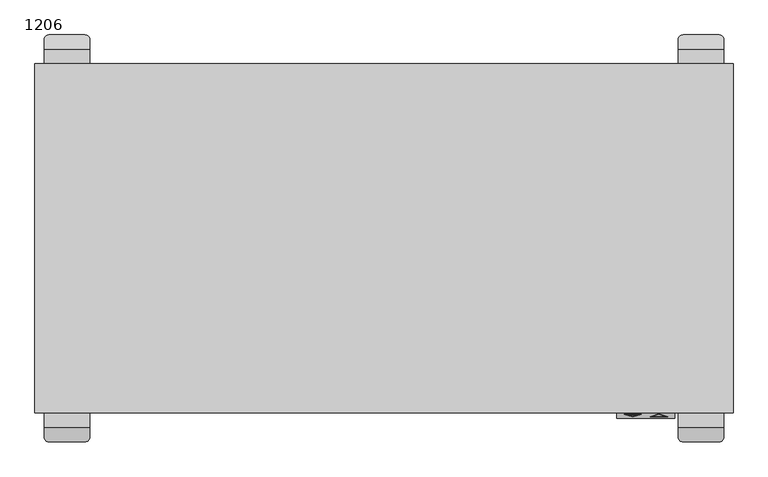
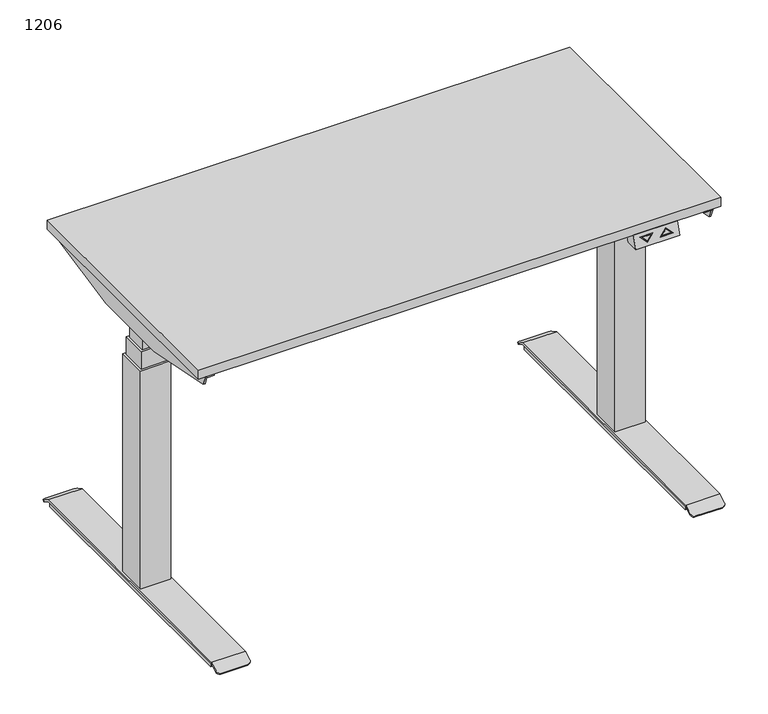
"""IFC4 building model written with IfcOpenShell, lengths in millimetres: furniture geometry, PINTA EQC : 1206."""

from ifc_helpers import new_model, si_unit, point, frame, frame_2d, origin, origin_with_axes, place, context, project, spatial, polyline, circle_curve, trimmed, segment, composite_curve, outline, extrude, faceted_brep, source, transform, mapped, element, save
from ifc_brep_helpers import plane_surface, cylinder_surface, advanced_brep


def furniture_1206_20e70a9a(model_context):
    return source(origin(), model_context, "Body", "SolidModel", [
        faceted_brep([(400.0, -610.0, 668.0), (400.0, -580.0, 668.0), (500.0, -580.0, 668.0), (500.0, -610.0, 668.0), (400.0, -600.0, 698.0), (500.0, -600.0, 698.0), (500.0, -570.0, 698.0), (400.0, -570.0, 698.0), (412.5, -602.6491106, 690.0526681), (442.5, -602.6491106, 690.0526681), (427.5, -607.3925271, 675.8224186), (487.5, -606.9174824, 677.2475529), (457.5, -606.9174824, 677.2475529), (472.5, -602.1740659, 691.4778023), (427.5, -606.4980999, 678.5057002), (437.6715729, -603.2815662, 688.1553015), (417.3284271, -603.2815662, 688.1553015), (482.6715729, -606.2850268, 679.1449195), (472.5, -603.0684931, 688.7945208), (462.3284271, -606.2850268, 679.1449195), (442.5, -601.7004273, 689.7364403), (412.5, -601.7004273, 689.7364403), (427.5, -606.4438438, 675.5061908), (437.6715729, -602.3328829, 687.8390737), (427.5, -605.5494166, 678.1894724), (417.3284271, -602.3328829, 687.8390737), (457.5, -605.9687991, 676.9313251), (487.5, -605.9687991, 676.9313251), (472.5, -601.2253826, 691.1615746), (472.5, -602.1198098, 688.478293), (482.6715729, -605.3363436, 678.8286917), (462.3284271, -605.3363436, 678.8286917)], [[[0, 1, 2, 3]], [[4, 5, 6, 7]], [[1, 0, 4, 7]], [[3, 2, 6, 5]], [[0, 3, 5, 4], [8, 9, 10], [11, 12, 13]], [[14, 15, 16]], [[17, 18, 19]], [[2, 1, 7, 6]], [[20, 21, 22], [23, 24, 25]], [[26, 27, 28], [29, 30, 31]], [[21, 20, 9, 8]], [[22, 21, 8, 10]], [[20, 22, 10, 9]], [[27, 26, 12, 11]], [[28, 27, 11, 13]], [[26, 28, 13, 12]], [[24, 23, 15, 14]], [[25, 24, 14, 16]], [[23, 25, 16, 15]], [[30, 29, 18, 17]], [[31, 30, 17, 19]], [[29, 31, 19, 18]]]),
        extrude(outline(polyline([(-580.0, -219.7732113), (580.0, -219.7733158), (580.0, -239.7733158), (-580.0, -239.7732113), (-580.0, -219.7732113)])), frame((0.0, 0.0, 658.0), z_axis=(0.0, 0.0, 1.0), x_axis=(1.0, 0.0, 0.0)), (0.0, 0.0, 1.0), 40.0),
        extrude(outline(polyline([(-580.0, -359.7732114), (580.0, -359.7733158), (580.0, -379.7733158), (-580.0, -379.7732114), (-580.0, -359.7732114)])), frame((0.0, 0.0, 658.0), z_axis=(0.0, 0.0, 1.0), x_axis=(1.0, 0.0, 0.0)), (0.0, 0.0, 1.0), 40.0),
        extrude(outline(polyline([(-600.0, -600.0), (-600.0, 0.0), (600.0, 0.0), (600.0, -600.0), (-600.0, -600.0)])), frame((0.0, 0.0, 698.0), z_axis=(0.0, 0.0, 1.0), x_axis=(1.0, 0.0, 0.0)), (0.0, 0.0, 1.0), 22.0),
        advanced_brep(
        [(506.9772339, -620.0, 6.0), (506.9772339, -620.0, 16.0), (506.9772339, 20.0, 16.0), (506.9772339, 20.0, 6.0), (583.0227661, 20.0, 16.0), (583.0227661, 20.0, 6.0), (583.0227661, -620.0, 16.0), (583.0227661, -620.0, 6.0), (506.0, 25.0, 20.0), (506.0, 43.0199519, 9.908827), (506.0, 41.0655384, 6.4188029), (506.0, 23.9562578, 16.0), (506.0, -623.9562578, 16.0), (506.0, -641.0655384, 6.4188029), (506.0, -643.0199519, 9.908827), (506.0, -625.0, 20.0), (584.0, 23.9562578, 16.0), (584.0, 41.0655384, 6.4188029), (584.0, 43.0199519, 9.908827), (584.0, 25.0, 20.0), (584.0, -625.0, 20.0), (584.0, -643.0199519, 9.908827), (584.0, -641.0655384, 6.4188029), (584.0, -623.9562578, 16.0), (514.0, -650.0, 6.0), (576.0, -650.0, 6.0), (514.0, -648.0455865, 2.5099759), (576.0, -648.0455865, 2.5099759), (514.0, 48.0455865, 2.5099759), (576.0, 48.0455865, 2.5099759), (514.0, 50.0, 6.0), (576.0, 50.0, 6.0)],
        [
            (0, 1),
            (1, 2),
            (2, 3),
            (3, 0),
            (2, 4),
            (4, 5),
            (5, 3),
            (4, 6),
            (6, 7),
            (7, 5),
            (6, 1),
            (0, 7),
            (8, 9),
            (9, 10),
            (10, 11),
            (11, 12),
            (12, 13),
            (13, 14),
            (14, 15),
            (15, 8),
            (16, 17),
            (17, 18),
            (18, 19),
            (19, 20),
            (20, 21),
            (21, 22),
            (22, 23),
            (23, 16),
            (15, 20),
            (19, 8),
            (11, 16),
            (23, 12),
            (14, 24, circle_curve(frame((514.0, -643.0199519, 9.908827), z_axis=(0.0, -0.4886033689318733, 0.8725060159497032), x_axis=(0.0, 0.8725060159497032, 0.4886033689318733)), 8.0)),
            (24, 25),
            (25, 21, circle_curve(frame((576.0, -643.0199519, 9.908827), z_axis=(0.0, -0.4886033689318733, 0.8725060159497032), x_axis=(0.0, 0.8725060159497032, 0.4886033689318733)), 8.0)),
            (24, 26),
            (26, 27),
            (27, 25),
            (22, 27, circle_curve(frame((576.0, -641.0655384, 6.4188029), z_axis=(0.0, 0.4886033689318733, -0.8725060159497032), x_axis=(0.0, 0.8725060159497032, 0.4886033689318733)), 8.0)),
            (26, 13, circle_curve(frame((514.0, -641.0655384, 6.4188029), z_axis=(0.0, 0.4886033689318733, -0.8725060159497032), x_axis=(0.0, 0.8725060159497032, 0.4886033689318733)), 8.0)),
            (10, 28, circle_curve(frame((514.0, 41.0655384, 6.4188029), z_axis=(0.0, -0.4886033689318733, -0.8725060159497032), x_axis=(0.0, -0.8725060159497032, 0.4886033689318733)), 8.0)),
            (28, 29),
            (29, 17, circle_curve(frame((576.0, 41.0655384, 6.4188029), z_axis=(0.0, -0.4886033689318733, -0.8725060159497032), x_axis=(0.0, -0.8725060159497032, 0.4886033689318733)), 8.0)),
            (28, 30),
            (30, 31),
            (31, 29),
            (18, 31, circle_curve(frame((576.0, 43.0199519, 9.908827), z_axis=(0.0, 0.4886033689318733, 0.8725060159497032), x_axis=(0.0, -0.8725060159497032, 0.4886033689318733)), 8.0)),
            (30, 9, circle_curve(frame((514.0, 43.0199519, 9.908827), z_axis=(0.0, 0.4886033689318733, 0.8725060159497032), x_axis=(0.0, -0.8725060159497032, 0.4886033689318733)), 8.0)),
        ],
        [
            plane_surface(frame((506.9772339, -620.0, 16.0), z_axis=(-1.0, 0.0, 0.0), x_axis=(0.0, 0.0, -1.0))),
            plane_surface(frame((506.9772339, 20.0, 16.0), z_axis=(0.0, 1.0, 0.0), x_axis=(0.0, 0.0, -1.0))),
            plane_surface(frame((583.0227661, 20.0, 16.0), z_axis=(1.0, 0.0, 0.0), x_axis=(0.0, 0.0, -1.0))),
            plane_surface(frame((583.0227661, -620.0, 16.0), z_axis=(0.0, -1.0, 0.0), x_axis=(0.0, 0.0, -1.0))),
            plane_surface(frame((506.9772339, -623.4188232, 6.0), z_axis=(0.0, 0.0, -1.0), x_axis=(0.0, -1.0, 0.0))),
            plane_surface(frame((506.0, -300.0, 20.0), z_axis=(-1.0, 0.0, 0.0), x_axis=(0.0, -1.0, 0.0))),
            plane_surface(frame((584.0, -300.0, 20.0), z_axis=(1.0, 0.0, 0.0), x_axis=(0.0, 1.0, 0.0))),
            plane_surface(frame((506.0, 25.0, 20.0), z_axis=(0.0, 0.0, 1.0), x_axis=(1.0, 0.0, 0.0))),
            plane_surface(frame((506.0, -623.9562578, 16.0), z_axis=(0.0, 0.0, -1.0), x_axis=(1.0, 0.0, 0.0))),
            plane_surface(frame((506.0, -625.0, 20.0), z_axis=(0.0, -0.4886033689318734, 0.8725060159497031), x_axis=(1.0, 0.0, 0.0))),
            plane_surface(frame((506.0, -650.0, 6.0), z_axis=(0.0, -0.872506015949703, -0.4886033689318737), x_axis=(1.0, 0.0, 0.0))),
            plane_surface(frame((506.0, -648.0455865, 2.5099759), z_axis=(0.0, 0.4886033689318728, -0.8725060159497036), x_axis=(1.0, 0.0, 0.0))),
            plane_surface(frame((506.0, 23.9562578, 16.0), z_axis=(0.0, -0.4886033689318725, -0.8725060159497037), x_axis=(1.0, 0.0, 0.0))),
            plane_surface(frame((506.0, 48.0455865, 2.5099759), z_axis=(0.0, 0.8725060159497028, -0.48860336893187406), x_axis=(1.0, 0.0, 0.0))),
            plane_surface(frame((506.0, 50.0, 6.0), z_axis=(0.0, 0.48860336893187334, 0.8725060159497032), x_axis=(1.0, 0.0, 0.0))),
            cylinder_surface(frame((514.0, -643.0199519, 9.908827), z_axis=(0.0, -0.4886033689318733, 0.8725060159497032), x_axis=(0.0, 0.8725060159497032, 0.4886033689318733)), 8.0),
            cylinder_surface(frame((576.0, -643.0199519, 9.908827), z_axis=(0.0, -0.4886033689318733, 0.8725060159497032), x_axis=(0.0, 0.8725060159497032, 0.4886033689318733)), 8.0),
            cylinder_surface(frame((514.0, 43.0199519, 9.908827), z_axis=(0.0, 0.4886033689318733, 0.8725060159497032), x_axis=(0.0, -0.8725060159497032, 0.4886033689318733)), 8.0),
            cylinder_surface(frame((576.0, 43.0199519, 9.908827), z_axis=(0.0, 0.4886033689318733, 0.8725060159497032), x_axis=(0.0, -0.8725060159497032, 0.4886033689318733)), 8.0),
        ],
        [
            (0, [[1, 2, 3, 4]]),
            (1, [[-3, 5, 6, 7]]),
            (2, [[-6, 8, 9, 10]]),
            (3, [[-9, 11, -1, 12]]),
            (4, [[-4, -7, -10, -12]]),
            (5, [[13, 14, 15, 16, 17, 18, 19, 20]]),
            (6, [[21, 22, 23, 24, 25, 26, 27, 28]]),
            (7, [[29, -24, 30, -20]]),
            (8, [[31, -28, 32, -16], [-11, -8, -5, -2]]),
            (9, [[-19, 33, 34, 35, -25, -29]]),
            (10, [[36, 37, 38, -34]]),
            (11, [[-27, 39, -37, 40, -17, -32]]),
            (12, [[-15, 41, 42, 43, -21, -31]]),
            (13, [[44, 45, 46, -42]]),
            (14, [[-23, 47, -45, 48, -13, -30]]),
            (15, [[-40, -36, -33, -18]]),
            (16, [[-35, -38, -39, -26]]),
            (17, [[-48, -44, -41, -14]]),
            (18, [[-43, -46, -47, -22]]),
        ],
    ),
        faceted_brep([(379.4551307, -360.0, 698.0), (562.9996948, -360.0, 698.0), (562.9996948, -600.0, 698.0), (579.4551307, -600.0, 698.0), (583.0, -600.0, 698.0), (583.0, 0.0, 698.0), (579.4551307, 0.0, 698.0), (562.9996948, 0.0, 698.0), (562.9996948, -240.0, 698.0), (379.4551307, -240.0, 698.0), (379.4551307, -360.0, 635.2327881), (379.4551307, -240.0, 635.2327881), (579.4551307, -240.0, 635.2327881), (579.4551307, -203.8252348, 635.2327881), (583.0, -203.8252348, 635.2327881), (583.0, -396.1747652, 635.2327881), (579.4551307, -396.1747652, 635.2327881), (579.4551307, -360.0, 635.2327881), (562.9996948, -240.0, 694.9093018), (579.4551307, -240.0, 694.9093018), (579.4551307, -360.0, 694.9093018), (562.9996948, -360.0, 694.9093018), (579.4551307, -600.0, 694.9093018), (562.9996948, -600.0, 694.9093018), (579.4551307, 0.0, 694.9093018), (562.9996948, 0.0, 694.9093018), (579.4551307, -1.1249222, 694.9093018), (579.4551307, -598.8750778, 694.9093018), (579.4551307, -8.5505036, 674.5076845), (579.4551307, -591.4494964, 674.5076845), (583.0, -8.5505036, 674.5076845), (583.0, -591.4494964, 674.5076845)], [[[0, 1, 2, 3, 4, 5, 6, 7, 8, 9]], [[10, 11, 12, 13, 14, 15, 16, 17]], [[9, 11, 10, 0]], [[11, 9, 8, 18, 19, 12]], [[17, 20, 21, 1, 0, 10]], [[22, 3, 2, 23]], [[24, 25, 7, 6]], [[24, 26, 19, 18, 25]], [[23, 21, 20, 27, 22]], [[2, 1, 21, 23]], [[25, 18, 8, 7]], [[13, 12, 19, 26, 28]], [[29, 27, 20, 17, 16]], [[15, 14, 30, 5, 4, 31]], [[16, 15, 31, 29]], [[22, 27, 3]], [[6, 26, 24]], [[4, 3, 27, 29, 31]], [[28, 30, 14, 13]], [[30, 28, 26, 6, 5]]]),
        extrude(outline(composite_curve([segment(trimmed(circle_curve(frame_2d((545.0, -605.0)), 25.0), [point((570.0, -605.0))], [point((520.0, -605.0))], False, "CARTESIAN"), True, "CONTINUOUS"), segment(trimmed(circle_curve(frame_2d((545.0, -605.0)), 25.0), [point((520.0, -605.0))], [point((570.0, -605.0))], False, "CARTESIAN"), True, "CONTINUOUS")], self_intersect=False)), origin_with_axes(), (0.0, 0.0, 1.0), 6.0),
        extrude(outline(composite_curve([segment(trimmed(circle_curve(frame_2d((545.0, 5.0)), 25.0), [point((570.0, 5.0))], [point((520.0, 5.0))], False, "CARTESIAN"), True, "CONTINUOUS"), segment(trimmed(circle_curve(frame_2d((545.0, 5.0)), 25.0), [point((520.0, 5.0))], [point((570.0, 5.0))], False, "CARTESIAN"), True, "CONTINUOUS")], self_intersect=False)), origin_with_axes(), (0.0, 0.0, 1.0), 6.0),
        faceted_brep([(510.0, -265.0, 550.0), (510.0, -334.9621325, 550.0), (580.0, -334.9621325, 550.0), (580.0, -265.0, 550.0), (575.0, -270.0, 550.0), (575.0, -329.9621325, 550.0), (515.0, -329.9621325, 550.0), (515.0, -270.0, 550.0), (510.0, -265.0, 20.0), (580.0, -265.0, 20.0), (580.0, -334.9621325, 20.0), (510.0, -334.9621325, 20.0), (515.0, -270.0, 592.616394), (515.0, -329.9621325, 592.616394), (575.0, -329.9621325, 592.616394), (575.0, -270.0, 592.616394), (570.0, -275.0, 592.616394), (570.0, -324.9621325, 592.616394), (520.0, -324.9621325, 592.616394), (520.0, -275.0, 592.616394), (520.0, -275.0, 635.2327881), (520.0, -324.9621325, 635.2327881), (570.0, -324.9621325, 635.2327881), (570.0, -275.0, 635.2327881)], [[[0, 1, 2, 3], [4, 5, 6, 7]], [[8, 9, 10, 11]], [[3, 9, 8, 0]], [[2, 10, 9, 3]], [[1, 11, 10, 2]], [[0, 8, 11, 1]], [[12, 13, 14, 15], [16, 17, 18, 19]], [[15, 4, 7, 12]], [[14, 5, 4, 15]], [[13, 6, 5, 14]], [[12, 7, 6, 13]], [[20, 21, 22, 23]], [[23, 16, 19, 20]], [[22, 17, 16, 23]], [[21, 18, 17, 22]], [[20, 19, 18, 21]]]),
        advanced_brep(
        [(-506.9772339, -620.0, 6.0), (-506.9772339, 20.0, 6.0), (-506.9772339, 20.0, 16.0), (-506.9772339, -620.0, 16.0), (-583.0227661, 20.0, 6.0), (-583.0227661, 20.0, 16.0), (-583.0227661, -620.0, 6.0), (-583.0227661, -620.0, 16.0), (-506.0, 25.0, 20.0), (-506.0, -625.0, 20.0), (-506.0, -643.0199519, 9.908827), (-506.0, -641.0655384, 6.4188029), (-506.0, -623.9562578, 16.0), (-506.0, 23.9562578, 16.0), (-506.0, 41.0655384, 6.4188029), (-506.0, 43.0199519, 9.908827), (-584.0, 23.9562578, 16.0), (-584.0, -623.9562578, 16.0), (-584.0, -641.0655384, 6.4188029), (-584.0, -643.0199519, 9.908827), (-584.0, -625.0, 20.0), (-584.0, 25.0, 20.0), (-584.0, 43.0199519, 9.908827), (-584.0, 41.0655384, 6.4188029), (-576.0, -650.0, 6.0), (-514.0, -650.0, 6.0), (-576.0, -648.0455865, 2.5099759), (-514.0, -648.0455865, 2.5099759), (-576.0, 48.0455865, 2.5099759), (-514.0, 48.0455865, 2.5099759), (-576.0, 50.0, 6.0), (-514.0, 50.0, 6.0)],
        [
            (0, 1),
            (1, 2),
            (2, 3),
            (3, 0),
            (1, 4),
            (4, 5),
            (5, 2),
            (4, 6),
            (6, 7),
            (7, 5),
            (6, 0),
            (3, 7),
            (8, 9),
            (9, 10),
            (10, 11),
            (11, 12),
            (12, 13),
            (13, 14),
            (14, 15),
            (15, 8),
            (16, 17),
            (17, 18),
            (18, 19),
            (19, 20),
            (20, 21),
            (21, 22),
            (22, 23),
            (23, 16),
            (8, 21),
            (20, 9),
            (12, 17),
            (16, 13),
            (19, 24, circle_curve(frame((-576.0, -643.0199519, 9.908827), z_axis=(0.0, -0.4886033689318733, 0.8725060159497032), x_axis=(0.0, 0.8725060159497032, 0.4886033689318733)), 8.0)),
            (24, 25),
            (25, 10, circle_curve(frame((-514.0, -643.0199519, 9.908827), z_axis=(0.0, -0.4886033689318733, 0.8725060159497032), x_axis=(0.0, 0.8725060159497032, 0.4886033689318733)), 8.0)),
            (24, 26),
            (26, 27),
            (27, 25),
            (11, 27, circle_curve(frame((-514.0, -641.0655384, 6.4188029), z_axis=(0.0, 0.4886033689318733, -0.8725060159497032), x_axis=(0.0, 0.8725060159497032, 0.4886033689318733)), 8.0)),
            (26, 18, circle_curve(frame((-576.0, -641.0655384, 6.4188029), z_axis=(0.0, 0.4886033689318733, -0.8725060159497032), x_axis=(0.0, 0.8725060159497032, 0.4886033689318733)), 8.0)),
            (23, 28, circle_curve(frame((-576.0, 41.0655384, 6.4188029), z_axis=(0.0, -0.4886033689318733, -0.8725060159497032), x_axis=(0.0, -0.8725060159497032, 0.4886033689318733)), 8.0)),
            (28, 29),
            (29, 14, circle_curve(frame((-514.0, 41.0655384, 6.4188029), z_axis=(0.0, -0.4886033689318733, -0.8725060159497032), x_axis=(0.0, -0.8725060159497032, 0.4886033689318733)), 8.0)),
            (28, 30),
            (30, 31),
            (31, 29),
            (15, 31, circle_curve(frame((-514.0, 43.0199519, 9.908827), z_axis=(0.0, 0.4886033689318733, 0.8725060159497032), x_axis=(0.0, -0.8725060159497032, 0.4886033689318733)), 8.0)),
            (30, 22, circle_curve(frame((-576.0, 43.0199519, 9.908827), z_axis=(0.0, 0.4886033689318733, 0.8725060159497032), x_axis=(0.0, -0.8725060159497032, 0.4886033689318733)), 8.0)),
        ],
        [
            plane_surface(frame((-506.9772339, -620.0, 16.0), z_axis=(1.0, 0.0, 0.0), x_axis=(0.0, 0.0, -1.0))),
            plane_surface(frame((-506.9772339, 20.0, 16.0), z_axis=(0.0, 1.0, 0.0), x_axis=(0.0, 0.0, -1.0))),
            plane_surface(frame((-583.0227661, 20.0, 16.0), z_axis=(-1.0, 0.0, 0.0), x_axis=(0.0, 0.0, -1.0))),
            plane_surface(frame((-583.0227661, -620.0, 16.0), z_axis=(0.0, -1.0, 0.0), x_axis=(0.0, 0.0, -1.0))),
            plane_surface(frame((-506.9772339, -623.4188232, 6.0), z_axis=(0.0, 0.0, -1.0), x_axis=(0.0, -1.0, 0.0))),
            plane_surface(frame((-506.0, -300.0, 20.0), z_axis=(1.0, 0.0, 0.0), x_axis=(0.0, -1.0, 0.0))),
            plane_surface(frame((-584.0, -300.0, 20.0), z_axis=(-1.0, 0.0, 0.0), x_axis=(0.0, 1.0, 0.0))),
            plane_surface(frame((-506.0, 25.0, 20.0), z_axis=(0.0, 0.0, 1.0), x_axis=(-1.0, 0.0, 0.0))),
            plane_surface(frame((-506.0, -623.9562578, 16.0), z_axis=(0.0, 0.0, -1.0), x_axis=(-1.0, 0.0, 0.0))),
            plane_surface(frame((-506.0, -625.0, 20.0), z_axis=(0.0, -0.4886033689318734, 0.8725060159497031), x_axis=(-1.0, 0.0, 0.0))),
            plane_surface(frame((-506.0, -650.0, 6.0), z_axis=(0.0, -0.872506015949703, -0.4886033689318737), x_axis=(-1.0, 0.0, 0.0))),
            plane_surface(frame((-506.0, -648.0455865, 2.5099759), z_axis=(0.0, 0.4886033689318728, -0.8725060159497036), x_axis=(-1.0, 0.0, 0.0))),
            plane_surface(frame((-506.0, 23.9562578, 16.0), z_axis=(0.0, -0.4886033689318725, -0.8725060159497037), x_axis=(-1.0, 0.0, 0.0))),
            plane_surface(frame((-506.0, 48.0455865, 2.5099759), z_axis=(0.0, 0.8725060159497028, -0.48860336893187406), x_axis=(-1.0, 0.0, 0.0))),
            plane_surface(frame((-506.0, 50.0, 6.0), z_axis=(0.0, 0.48860336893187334, 0.8725060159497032), x_axis=(-1.0, 0.0, 0.0))),
            cylinder_surface(frame((-514.0, -643.0199519, 9.908827), z_axis=(0.0, -0.4886033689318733, 0.8725060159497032), x_axis=(0.0, 0.8725060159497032, 0.4886033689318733)), 8.0),
            cylinder_surface(frame((-576.0, -643.0199519, 9.908827), z_axis=(0.0, -0.4886033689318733, 0.8725060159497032), x_axis=(0.0, 0.8725060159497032, 0.4886033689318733)), 8.0),
            cylinder_surface(frame((-514.0, 43.0199519, 9.908827), z_axis=(0.0, 0.4886033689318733, 0.8725060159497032), x_axis=(0.0, -0.8725060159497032, 0.4886033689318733)), 8.0),
            cylinder_surface(frame((-576.0, 43.0199519, 9.908827), z_axis=(0.0, 0.4886033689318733, 0.8725060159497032), x_axis=(0.0, -0.8725060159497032, 0.4886033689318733)), 8.0),
        ],
        [
            (0, [[1, 2, 3, 4]]),
            (1, [[5, 6, 7, -2]]),
            (2, [[8, 9, 10, -6]]),
            (3, [[11, -4, 12, -9]]),
            (4, [[-11, -8, -5, -1]]),
            (5, [[13, 14, 15, 16, 17, 18, 19, 20]]),
            (6, [[21, 22, 23, 24, 25, 26, 27, 28]]),
            (7, [[-13, 29, -25, 30]]),
            (8, [[-17, 31, -21, 32], [-3, -7, -10, -12]]),
            (9, [[-30, -24, 33, 34, 35, -14]]),
            (10, [[-34, 36, 37, 38]]),
            (11, [[-31, -16, 39, -37, 40, -22]]),
            (12, [[-32, -28, 41, 42, 43, -18]]),
            (13, [[-42, 44, 45, 46]]),
            (14, [[-29, -20, 47, -45, 48, -26]]),
            (15, [[-15, -35, -38, -39]]),
            (16, [[-23, -40, -36, -33]]),
            (17, [[-19, -43, -46, -47]]),
            (18, [[-27, -48, -44, -41]]),
        ],
    ),
        faceted_brep([(-379.4551307, -360.0, 698.0), (-379.4551307, -240.0, 698.0), (-562.9996948, -240.0, 698.0), (-562.9996948, 0.0, 698.0), (-579.4551307, 0.0, 698.0), (-583.0, 0.0, 698.0), (-583.0, -600.0, 698.0), (-579.4551307, -600.0, 698.0), (-562.9996948, -600.0, 698.0), (-562.9996948, -360.0, 698.0), (-379.4551307, -360.0, 635.2327881), (-579.4551307, -360.0, 635.2327881), (-579.4551307, -396.1747652, 635.2327881), (-583.0, -396.1747652, 635.2327881), (-583.0, -203.8252348, 635.2327881), (-579.4551307, -203.8252348, 635.2327881), (-579.4551307, -240.0, 635.2327881), (-379.4551307, -240.0, 635.2327881), (-579.4551307, -240.0, 694.9093018), (-562.9996948, -240.0, 694.9093018), (-562.9996948, -360.0, 694.9093018), (-579.4551307, -360.0, 694.9093018), (-579.4551307, -600.0, 694.9093018), (-562.9996948, -600.0, 694.9093018), (-579.4551307, 0.0, 694.9093018), (-562.9996948, 0.0, 694.9093018), (-579.4551307, -598.8750778, 694.9093018), (-579.4551307, -1.1249222, 694.9093018), (-579.4551307, -591.4494964, 674.5076845), (-579.4551307, -8.5505036, 674.5076845), (-583.0, -591.4494964, 674.5076845), (-583.0, -8.5505036, 674.5076845)], [[[0, 1, 2, 3, 4, 5, 6, 7, 8, 9]], [[10, 11, 12, 13, 14, 15, 16, 17]], [[1, 0, 10, 17]], [[17, 16, 18, 19, 2, 1]], [[11, 10, 0, 9, 20, 21]], [[22, 23, 8, 7]], [[24, 4, 3, 25]], [[23, 22, 26, 21, 20]], [[24, 25, 19, 18, 27]], [[8, 23, 20, 9]], [[25, 3, 2, 19]], [[28, 12, 11, 21, 26]], [[15, 29, 27, 18, 16]], [[13, 30, 6, 5, 31, 14]], [[12, 28, 30, 13]], [[22, 7, 26]], [[4, 24, 27]], [[6, 30, 28, 26, 7]], [[29, 15, 14, 31]], [[31, 5, 4, 27, 29]]]),
        extrude(outline(composite_curve([segment(trimmed(circle_curve(frame_2d((-545.0, -605.0)), 25.0), [point((-570.0, -605.0))], [point((-520.0, -605.0))], False, "CARTESIAN"), True, "CONTINUOUS"), segment(trimmed(circle_curve(frame_2d((-545.0, -605.0)), 25.0), [point((-520.0, -605.0))], [point((-570.0, -605.0))], False, "CARTESIAN"), True, "CONTINUOUS")], self_intersect=False)), origin_with_axes(), (0.0, 0.0, 1.0), 6.0),
        extrude(outline(composite_curve([segment(trimmed(circle_curve(frame_2d((-545.0, 5.0)), 25.0), [point((-570.0, 5.0))], [point((-520.0, 5.0))], False, "CARTESIAN"), True, "CONTINUOUS"), segment(trimmed(circle_curve(frame_2d((-545.0, 5.0)), 25.0), [point((-520.0, 5.0))], [point((-570.0, 5.0))], False, "CARTESIAN"), True, "CONTINUOUS")], self_intersect=False)), origin_with_axes(), (0.0, 0.0, 1.0), 6.0),
        faceted_brep([(-510.0, -265.0, 550.0), (-580.0, -265.0, 550.0), (-580.0, -334.9621325, 550.0), (-510.0, -334.9621325, 550.0), (-575.0, -270.0, 550.0), (-515.0, -270.0, 550.0), (-515.0, -329.9621325, 550.0), (-575.0, -329.9621325, 550.0), (-510.0, -265.0, 20.0), (-510.0, -334.9621325, 20.0), (-580.0, -334.9621325, 20.0), (-580.0, -265.0, 20.0), (-515.0, -270.0, 592.616394), (-575.0, -270.0, 592.616394), (-575.0, -329.9621325, 592.616394), (-515.0, -329.9621325, 592.616394), (-570.0, -275.0, 592.616394), (-520.0, -275.0, 592.616394), (-520.0, -324.9621325, 592.616394), (-570.0, -324.9621325, 592.616394), (-520.0, -275.0, 635.2327881), (-570.0, -275.0, 635.2327881), (-570.0, -324.9621325, 635.2327881), (-520.0, -324.9621325, 635.2327881)], [[[0, 1, 2, 3], [4, 5, 6, 7]], [[8, 9, 10, 11]], [[1, 0, 8, 11]], [[2, 1, 11, 10]], [[3, 2, 10, 9]], [[0, 3, 9, 8]], [[12, 13, 14, 15], [16, 17, 18, 19]], [[13, 12, 5, 4]], [[14, 13, 4, 7]], [[15, 14, 7, 6]], [[12, 15, 6, 5]], [[20, 21, 22, 23]], [[21, 20, 17, 16]], [[22, 21, 16, 19]], [[23, 22, 19, 18]], [[20, 23, 18, 17]]]),
    ])


if __name__ == "__main__":
    model = new_model("IFC4")
    model_context = context("Model", 3, world=origin())
    ifc_project = project(units=[si_unit("LENGTHUNIT", "METRE", prefix="MILLI")], contexts=[model_context])
    site = spatial("IfcSite", under=ifc_project)
    building = spatial("IfcBuilding", under=site)
    placement = place(None, origin())
    furniture_1206_shape = furniture_1206_20e70a9a(model_context)
    element("IfcFurniture", 1, ObjectType="PINTA EQC : 1206", at=placement, inside=building, context=model_context, shape_type="MappedRepresentation", body=[
        mapped(furniture_1206_shape, transform((0.0, 0.0, 0.0), x_axis=(1.0, 0.0, 0.0), y_axis=(0.0, 1.0, 0.0), z_axis=(0.0, 0.0, 1.0))),
    ])
    save(model, "model.ifc")
